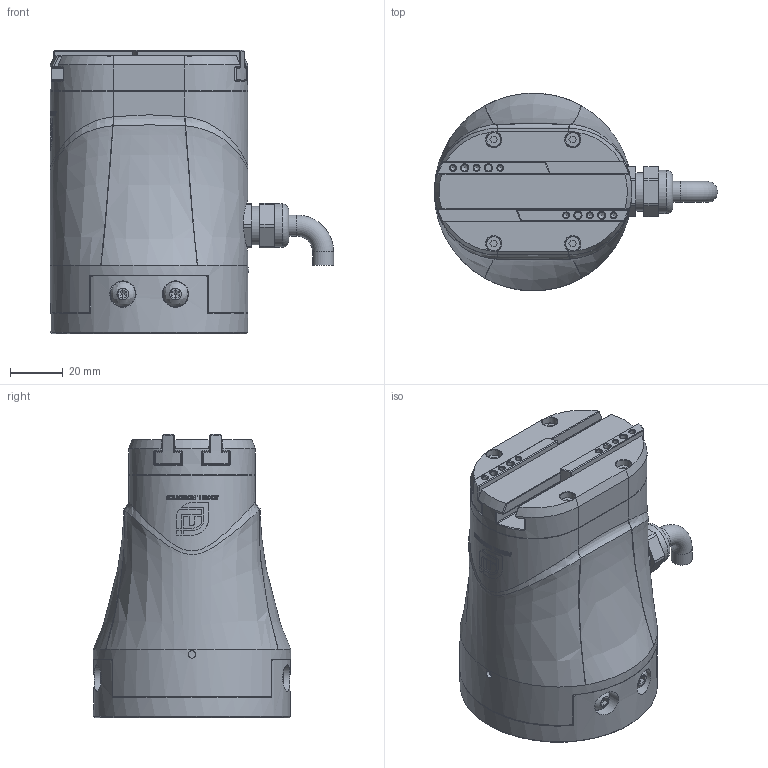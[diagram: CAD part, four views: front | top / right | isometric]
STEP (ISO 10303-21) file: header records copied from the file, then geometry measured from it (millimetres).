
FILE_DESCRIPTION (( 'STEP AP203' ), '1' );
FILE_NAME ('RG52-050-0L#-C5024-P40-A##.STEP', '2022-06-10T03:18:36', ( 'User' ), ( 'China' ), 'SwSTEP 2.0', 'SolidWorks 2016', '' );
FILE_SCHEMA (( 'CONFIG_CONTROL_DESIGN' ));
Length unit declared in the file: millimetre
Products named in the file (2): RG52-050-0L#-C5024-P40-A##
Bounding box: 107.5 x 75 x 107.5 mm (x, y, z)
Volume: 378659.9 mm3; surface area: 62853.6 mm2
Topology: 15 solids, 15 shells, 773 faces, 1879 edges, 1202 vertices
Faces by surface type: bspline 276, plane 275, cylinder 137, cone 74, torus 10, sphere 1
Full cylindrical faces by diameter (mm): 2.05 x6, 2.5 x6, 2.8 x3, 3 x4, 3.2 x4, 3.4 x1, 4.2 x4, 5 x4, 5.4 x4, 5.5 x4, 5.8 x4, 6.4 x4, 8 x2, 10 x4, 12 x2, 14.7 x1, 16.4 x1, 20 x1, 63 x1, 75 x2
Entity records: 33377 total; most frequent: CARTESIAN_POINT 18408, ORIENTED_EDGE 3478, DIRECTION 1974, EDGE_CURVE 1739, VERTEX_POINT 1170, B_SPLINE_CURVE_WITH_KNOTS 1016, EDGE_LOOP 971, FACE_OUTER_BOUND 845
